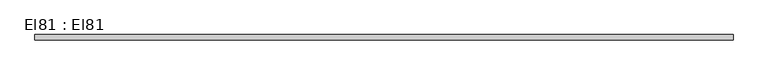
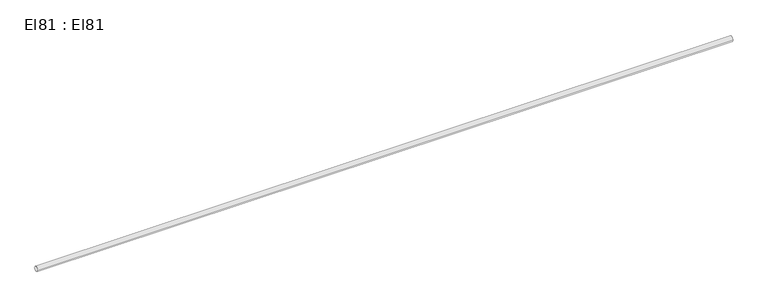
"""IFC4 building model written with IfcOpenShell, lengths in millimetres: cable carrier segment geometry, El81 : El81."""

from ifc_helpers import new_model, si_unit, point, frame, frame_2d, origin, place, context, project, spatial, circle_curve, trimmed, segment, composite_curve, outline, extrude, source, transform, mapped, element, save


def el81_el81_ae59e3dd(model_context):
    return source(origin(), model_context, "Body", "SweptSolid", [
        extrude(outline(composite_curve([segment(trimmed(circle_curve(frame_2d((18719.6, 2950.0)), 9.5), [point((18710.1, 2950.0))], [point((18729.1, 2950.0))], False, "CARTESIAN"), True, "CONTINUOUS"), segment(trimmed(circle_curve(frame_2d((18719.6, 2950.0)), 9.5), [point((18729.1, 2950.0))], [point((18710.1, 2950.0))], False, "CARTESIAN"), True, "CONTINUOUS")], self_intersect=False)), frame((22393.6, 0.0, 0.0), z_axis=(1.0, 0.0, 0.0), x_axis=(0.0, 1.0, 0.0)), (0.0, 0.0, 1.0), 2525.0),
    ])


if __name__ == "__main__":
    model = new_model("IFC4")
    model_context = context("Model", 3, world=origin())
    ifc_project = project(units=[si_unit("LENGTHUNIT", "METRE", prefix="MILLI")], contexts=[model_context])
    site = spatial("IfcSite", under=ifc_project)
    building = spatial("IfcBuilding", under=site)
    placement = place(None, origin())
    el81_el81_shape = el81_el81_ae59e3dd(model_context)
    element("IfcCableCarrierSegment", 1, ObjectType="El81 : El81", at=placement, inside=building, context=model_context, shape_type="MappedRepresentation", body=[
        mapped(el81_el81_shape, transform((0.0, 0.0, 0.0), x_axis=(1.0, 0.0, 0.0), y_axis=(0.0, 1.0, 0.0), z_axis=(0.0, 0.0, 1.0))),
    ])
    save(model, "model.ifc")
